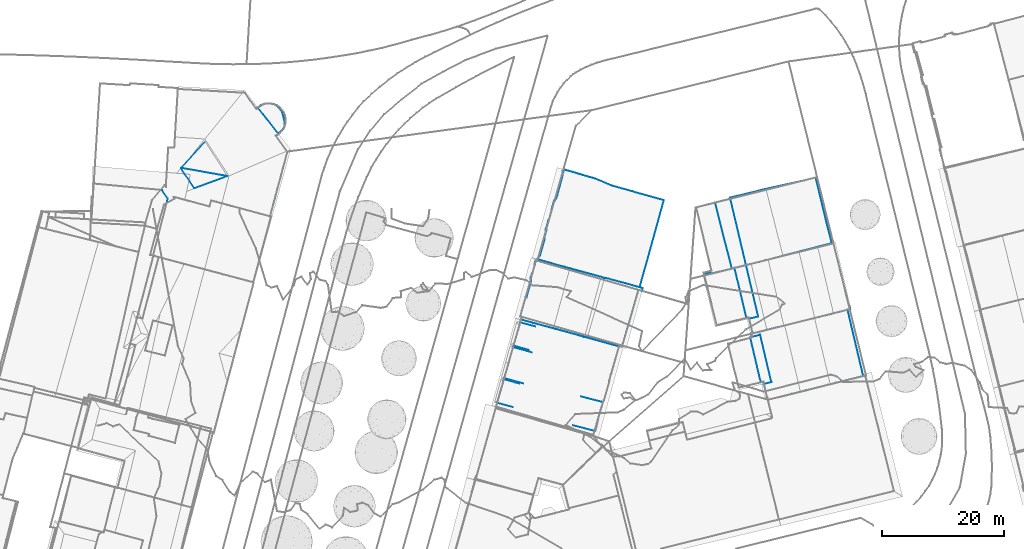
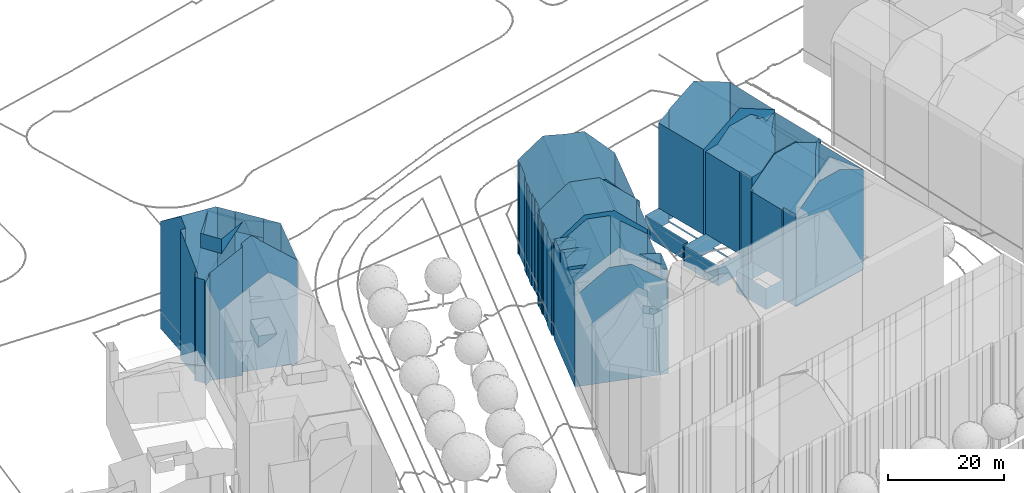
# Not in any storey, part 58 of 477: 7 walls.
"""IFC4 building model written with IfcOpenShell, lengths in metres."""

import ifcopenshell
import ifcopenshell.guid

model = None  # the IFC model being written
_history = None  # IfcOwnerHistory: only IFC2X3 demands one
_inside = {}  # id of a spatial element -> (the spatial element, [elements in it])
_under = {}  # id of a project, library or spatial element -> (it, [spatial elements below it])
_declared = {}  # id of a project -> (the project, [libraries it declares])
_typed = {}  # id of a type object -> (the type object, [elements of that type])
_made_of = {}  # id of a material, layer set ... -> (it, [elements and type objects made of it])


def new_model(schema):
    """Start an empty IFC model of exactly this schema.

    Asked for "IFC4X3", IfcOpenShell would pick the latest addendum, in which some entities
    have other attributes; the version numbers below select the first issue.
    IFC2X3 requires an IfcOwnerHistory on every rooted entity: one is made here for all.
    """
    global model, _history
    if schema == "IFC4X3":
        model = ifcopenshell.file(schema_version=(4, 3, 0, 0))
    else:
        model = ifcopenshell.file(schema=schema)
    _inside.clear()
    _under.clear()
    _declared.clear()
    _typed.clear()
    _made_of.clear()
    _history = None
    if model.schema == "IFC2X3":
        org = make("IfcOrganization", Name="unknown")
        user = make(
            "IfcPersonAndOrganization",
            ThePerson=make("IfcPerson", FamilyName="unknown"),
            TheOrganization=org,
        )
        app = make(
            "IfcApplication",
            ApplicationDeveloper=org,
            Version="unknown",
            ApplicationFullName="unknown",
            ApplicationIdentifier="unknown",
        )
        _history = make(
            "IfcOwnerHistory",
            OwningUser=user,
            OwningApplication=app,
            ChangeAction="ADDED",
            CreationDate=0,
        )
    return model


def make(cls, **values):
    """One entity of the class cls with the attributes given. An attribute that is None is left unset."""
    return model.create_entity(
        cls, **{name: value for name, value in values.items() if value is not None}
    )


def rooted(cls, **values):
    """An entity with a GlobalId (a new one), such as an element, a storey or a relation."""
    return make(cls, GlobalId=ifcopenshell.guid.new(), OwnerHistory=_history, **values)


def si_unit(unit_type, name, prefix=None):
    """IfcSIUnit, for example si_unit("LENGTHUNIT", "METRE", prefix="MILLI")."""
    return make("IfcSIUnit", UnitType=unit_type, Prefix=prefix, Name=name)


def assignment(units):
    """IfcUnitAssignment: the units of a project."""
    return None if units is None else make("IfcUnitAssignment", Units=units)


def point(xyz):
    """IfcCartesianPoint."""
    return None if xyz is None else make("IfcCartesianPoint", Coordinates=xyz)


def direction(xyz):
    """IfcDirection."""
    return None if xyz is None else make("IfcDirection", DirectionRatios=xyz)


def frame(location, z_axis=None, x_axis=None):
    """IfcAxis2Placement3D, a coordinate frame: its origin and axes. An axis left out is left unset."""
    return make(
        "IfcAxis2Placement3D",
        Location=point(location),
        Axis=direction(z_axis),
        RefDirection=direction(x_axis),
    )


def origin_with_axes():
    """The frame at (0, 0, 0) with the z axis (0, 0, 1) and the x axis (1, 0, 0) written out."""
    return frame((0.0, 0.0, 0.0), z_axis=(0.0, 0.0, 1.0), x_axis=(1.0, 0.0, 0.0))


def place(relative_to, where):
    """IfcLocalPlacement: puts the frame where relative to a parent placement (None: the world)."""
    return make(
        "IfcLocalPlacement", PlacementRelTo=relative_to, RelativePlacement=where
    )


def context(
    kind, dimensions, precision=None, world=None, true_north=None, identifier=None
):
    """IfcGeometricRepresentationContext, for example the 3D "Model" context."""
    return make(
        "IfcGeometricRepresentationContext",
        ContextIdentifier=identifier,
        ContextType=kind,
        CoordinateSpaceDimension=dimensions,
        Precision=precision,
        WorldCoordinateSystem=world,
        TrueNorth=true_north,
    )


def subcontext(parent, identifier, kind, view, scale=None):
    """IfcGeometricRepresentationSubContext, for example "Body" below "Model"."""
    return make(
        "IfcGeometricRepresentationSubContext",
        ContextIdentifier=identifier,
        ContextType=kind,
        ParentContext=parent,
        TargetScale=scale,
        TargetView=view,
    )


def project(units=None, contexts=None):
    """IfcProject with its units and contexts."""
    return rooted(
        "IfcProject",
        Name="project",
        RepresentationContexts=contexts,
        UnitsInContext=assignment(units),
    )


def spatial(cls, under=None, at=None, **own):
    """A site, building, storey or space (cls), placed at a placement, below another one or the project."""
    s = rooted(cls, ObjectPlacement=at, **own)
    if under is not None:
        _under.setdefault(under.id(), (under, []))[1].append(s)
    return s


def point_list(points):
    """IfcCartesianPointList2D or 3D."""
    cls = (
        "IfcCartesianPointList2D" if len(points[0]) == 2 else "IfcCartesianPointList3D"
    )
    return make(cls, CoordList=points)


def polygons(points, faces, closed=None, point_numbers=None):
    """IfcPolygonalFaceSet: a face is its outer loop, then its inner loops; points numbered from 1."""
    made = []
    for loops in faces:
        if len(loops) == 1:
            made.append(make("IfcIndexedPolygonalFace", CoordIndex=loops[0]))
        else:
            made.append(
                make(
                    "IfcIndexedPolygonalFaceWithVoids",
                    CoordIndex=loops[0],
                    InnerCoordIndices=loops[1:],
                )
            )
    return make(
        "IfcPolygonalFaceSet",
        Coordinates=point_list(points),
        Closed=closed,
        Faces=made,
        PnIndex=point_numbers,
    )


def shape(context_of_items, identifier, shape_type, items):
    """IfcShapeRepresentation: the items that make up one representation, for example the "Body"."""
    return make(
        "IfcShapeRepresentation",
        ContextOfItems=context_of_items,
        RepresentationIdentifier=identifier,
        RepresentationType=shape_type,
        Items=items,
    )


def made_of(thing, what):
    """Note that an element or type object is made of a material, layer set ...; save() writes the relation."""
    if what is not None:
        _made_of.setdefault(what.id(), (what, []))[1].append(thing)
    return thing


def element(
    cls,
    number,
    at=None,
    inside=None,
    cuts=None,
    type_object=None,
    material=None,
    context=None,
    identifier="Body",
    shape_type=None,
    held_by="IfcProductDefinitionShape",
    body=None,
    shapes=None,
    **own,
):
    """One element of the class cls, such as IfcWall. Its Tag is "e" and its number.

    at: its placement. inside: the storey or other place that contains it. cuts: it is an
    opening in that element (IfcRelVoidsElement). A single representation is given by context,
    identifier, shape_type and body (its items); several are given by shapes. held_by: the class
    of the entity that holds the representations. save() writes the other relations.
    """
    e = rooted(cls, Tag="e%d" % number, ObjectPlacement=at, **own)
    if body is not None:
        shapes = [shape(context, identifier, shape_type, body)]
    if shapes is not None:
        e.Representation = make(held_by, Representations=shapes)
    if inside is not None:
        _inside.setdefault(inside.id(), (inside, []))[1].append(e)
    if cuts is not None:
        rooted(
            "IfcRelVoidsElement", RelatingBuildingElement=cuts, RelatedOpeningElement=e
        )
    if type_object is not None:
        _typed.setdefault(type_object.id(), (type_object, []))[1].append(e)
    return made_of(e, material)


def aggregate(whole, parts):
    """IfcRelAggregates: a whole, such as a stair, and the parts it consists of."""
    return rooted("IfcRelAggregates", RelatingObject=whole, RelatedObjects=parts)


def save(model, path):
    """Write the relations noted so far, then the file.

    IfcRelAggregates (storeys below a building ...), IfcRelContainedInSpatialStructure (elements
    in a storey), IfcRelDefinesByType, IfcRelAssociatesMaterial and IfcRelDeclares: one each for
    every whole, place, type object, material and project.
    """
    for whole, parts in _under.values():
        aggregate(whole, parts)
    for where, things in _inside.values():
        rooted(
            "IfcRelContainedInSpatialStructure",
            RelatedElements=things,
            RelatingStructure=where,
        )
    for kind, things in _typed.values():
        rooted("IfcRelDefinesByType", RelatedObjects=things, RelatingType=kind)
    for what, things in _made_of.values():
        rooted("IfcRelAssociatesMaterial", RelatedObjects=things, RelatingMaterial=what)
    for by, libraries in _declared.values():
        rooted("IfcRelDeclares", RelatingContext=by, RelatedDefinitions=libraries)
    model.write(path)


model = new_model("IFC4")

# Units and contexts
model_context = context("Model", 3, precision=1e-05, world=origin_with_axes())
body_context = subcontext(model_context, "Body", "Model", "MODEL_VIEW")
ifc_project = project(units=[si_unit("AREAUNIT", "SQUARE_METRE"), si_unit("LENGTHUNIT", "METRE")], contexts=[model_context])

# Sites, building
site_1_placement = place(None, origin_with_axes())
site_1 = spatial("IfcSite", under=ifc_project, at=site_1_placement, Name="Topoexport Site")
site_2_placement = place(site_1_placement, origin_with_axes())
site_2 = spatial("IfcSite", under=site_1, at=site_2_placement, Name="TPX_BUILDINGS")
building_1_placement = place(site_2_placement, frame((64.667732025, 395.1844160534, 537.6027), z_axis=(0.0, 0.0, 1.0), x_axis=(1.0, 0.0, 0.0)))
building_1 = spatial("IfcBuilding", under=site_2, at=building_1_placement, Name="Building 211", CompositionType="ELEMENT")

# Wall
wall_1_placement = place(None, frame((64.667732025, 395.1844160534, 537.6027), z_axis=(0.0, 0.0, 1.0), x_axis=(1.0, 0.0, 0.0)))
element("IfcWall", 1, at=wall_1_placement, inside=building_1, Name="Wall 0", context=body_context, shape_type="Tessellation", body=[
    polygons([(1.3420000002, 4.691399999, 19.0922), (1.3420000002, 4.691399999, 21.8939), (4.5400000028, 3.8125, 21.8939), (2.7980000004, 9.7821999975, 19.1392), (5.943, 8.9188999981, 21.8939), (2.7980000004, 9.7821999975, 21.8939), (18.5920000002, 4.3182999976, 0.0), (18.6610000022, 4.2949000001, 19.1112), (18.5920000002, 4.3182999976, 9.5821), (18.6610000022, 4.2949000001, 0.0), (17.7279000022, 1.0175999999, 19.1352), (17.7279000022, 1.0175999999, 0.0), (17.6489000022, 1.0409999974, 19.1962), (17.6490000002, 1.0409999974, 0.0), (4.0940000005, 14.311499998, 0.0), (9.7730000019, 12.7919999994, 0.0), (4.0940000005, 14.311499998, 19.1812), (17.5660000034, 0.7548999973, 21.58), (13.8360000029, 1.7118999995, 22.0739), (14.7220000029, 1.4853000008, 21.393), (17.5660000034, 0.7548999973, 19.2002), (16.9110000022, 0.9228000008, 19.7051), (16.1920000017, -3.9717000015, 21.5999), (16.1920000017, -3.9717000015, 19.2552), (14.6000000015, -3.563500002, 20.4831), (12.5160000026, -3.0283000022, 22.0869), (1.2870000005, 4.498999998, 19.0902), (3.9030000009, 3.7802999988, 21.381), (1.2870000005, 4.498999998, 21.381), (0.1810000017, 0.6338, 19.0542), (0.1810000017, 0.6338, 21.381), (2.8380000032, -0.0956999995, 21.381), (3.9660000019, 13.8641999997, 19.1772), (6.4830000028, 13.1719000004, 21.382), (3.9660000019, 13.8641999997, 21.381), (2.8680000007, 10.0253999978, 19.1412), (2.8680000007, 10.0253999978, 21.381), (5.4240000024, 9.3222000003, 21.381), (20.200000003, 9.8876999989, 19.1072), (20.200000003, 9.8876999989, 0.0), (18.8600000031, 5.245099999, 0.0), (18.8600000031, 5.245099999, 19.1552), (18.5920000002, 4.3182999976, 19.1652), (15.995000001, -4.6484999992, -0.0001), (15.995000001, -4.6484999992, 19.2631), (13.6960000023, 11.6972000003, 24.1487), (13.6960000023, 11.6972000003, 0.0), (14.9600000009, 11.3524999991, 23.1708), (14.9600000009, 11.3524999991, 0.0), (0.0, 0.0, 19.0482), (0.0, 0.0, 0.0), (0.3230000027, 1.1279000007, 21.546), (1.1180000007, 3.9091999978, 21.557), (2.001000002, 6.9941000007, 0.0), (2.7980000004, 9.7821999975, 0.0), (2.0560000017, 7.1875, 23.1738), (3.0410000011, 10.6307999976, 21.579), (3.7740000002, 13.1923999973, 21.589), (14.5840000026, -4.2382999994, 0.0), (9.7090000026, -2.8203000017, 0.0), (14.5840000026, -4.2382999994, 20.3611), (5.7960000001, -1.683600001, 0.0), (5.7960000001, -1.683600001, 24.1487), (9.7090000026, -2.8203000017, 24.1487), (9.7730000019, 12.7919999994, 24.1487)], [[[3, 2, 1]], [[6, 5, 4]], [[9, 8, 7]], [[8, 10, 7]], [[13, 12, 11]], [[13, 14, 12]], [[8, 11, 10]], [[11, 12, 10]], [[17, 16, 15]], [[20, 19, 18]], [[22, 18, 21]], [[18, 22, 20]], [[25, 24, 23]], [[26, 25, 23]], [[29, 28, 27]], [[32, 31, 30]], [[35, 34, 33]], [[38, 37, 36]], [[9, 40, 39]], [[9, 41, 40]], [[39, 42, 9]], [[41, 9, 7]], [[42, 43, 9]], [[14, 13, 21]], [[24, 18, 23]], [[24, 14, 21]], [[14, 24, 44]], [[44, 24, 45]], [[21, 18, 24]], [[47, 16, 46]], [[46, 48, 47]], [[48, 39, 49]], [[40, 49, 39]], [[48, 49, 47]], [[30, 51, 50]], [[31, 52, 30]], [[52, 53, 27]], [[51, 30, 27]], [[27, 53, 29]], [[52, 27, 30]], [[54, 27, 1]], [[4, 15, 55]], [[1, 55, 54]], [[54, 51, 27]], [[55, 1, 4]], [[56, 1, 2]], [[6, 4, 56]], [[56, 4, 1]], [[36, 37, 57]], [[57, 58, 33]], [[35, 33, 58]], [[4, 36, 15]], [[33, 17, 15]], [[33, 36, 57]], [[36, 33, 15]], [[44, 45, 59]], [[45, 60, 59]], [[62, 60, 61]], [[60, 45, 61]], [[61, 64, 63]], [[50, 51, 62]], [[50, 61, 63]], [[50, 62, 61]], [[9, 43, 8]], [[65, 16, 17]], [[16, 65, 46]]]),
])

# Building
building_2_placement = place(site_2_placement, frame((102.7887320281, 405.5477160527, 537.9757), z_axis=(0.0, 0.0, 1.0), x_axis=(1.0, 0.0, 0.0)))
building_2 = spatial("IfcBuilding", under=site_2, at=building_2_placement, Name="Building 213", CompositionType="ELEMENT")

# Wall
wall_2_placement = place(None, frame((102.7887320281, 405.5477160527, 537.9757), z_axis=(0.0, 0.0, 1.0), x_axis=(1.0, 0.0, 0.0)))
element("IfcWall", 2, at=wall_2_placement, inside=building_2, Name="Wall 0", context=body_context, shape_type="Tessellation", body=[
    polygons([(5.4069999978, -6.3467000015, 4.4825), (3.6710000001, 0.9648000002, 4.4825), (5.4069999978, -6.3467000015, 19.2121), (19.6569999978, 5.5711999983, 0.1519), (22.2419999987, -5.3194000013, 21.2059), (19.6569999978, 5.5711999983, 21.2059), (1.7809999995, -7.2294999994, 0.0), (0.0, 0.0, 4.4825), (1.7809999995, -7.2294999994, 4.4825), (7.1319999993, -6.3047000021, 0.0), (5.9039999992, -6.5967000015, 0.0), (7.1319999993, -6.3047000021, 0.1519), (5.2899999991, 1.4569999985, 0.0), (5.2899999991, 1.4569999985, 0.152), (3.9609999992, 1.1415999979, 0.0), (3.9609999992, 1.1415999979, 0.152), (3.9849999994, 1.0478000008, 0.0), (3.9849999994, 1.0478000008, 19.4691), (3.8389999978, 1.6220000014, 19.4611), (3.8389999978, 1.6220000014, 0.152), (0.0, 0.0, 0.0), (3.6710000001, 0.9657999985, 19.2121), (5.8159999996, -6.2481000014, 19.5451), (5.8159999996, -6.2481000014, 0.0), (6.5639999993, -9.2256000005, 19.5771), (16.7939999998, -6.6768000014, 23.9257), (22.2419999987, -5.3194000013, 0.1519), (16.7939999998, -6.6768000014, 0.1519), (11.8929999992, -7.8984999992, 23.9257), (11.8929999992, -7.8984999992, 0.1519), (6.5639999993, -9.2256000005, 0.1519), (9.3090000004, 2.9882000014, 23.9257), (9.3090000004, 2.9882000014, 0.152), (14.2089999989, 4.2109000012, 23.9257), (14.2089999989, 4.2109000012, 0.152), (5.9039999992, -6.5967000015, 0.1519)], [[[3, 2, 1]], [[6, 5, 4]], [[9, 8, 7]], [[12, 11, 10]], [[14, 12, 13]], [[16, 13, 15]], [[18, 16, 17]], [[16, 18, 19]], [[17, 16, 15]], [[20, 16, 19]], [[17, 21, 2]], [[2, 21, 8]], [[2, 22, 18]], [[2, 18, 17]], [[23, 3, 1]], [[23, 1, 24]], [[1, 7, 24]], [[7, 1, 9]], [[5, 26, 25]], [[28, 27, 5]], [[25, 26, 29]], [[25, 31, 30]], [[30, 28, 25]], [[25, 28, 5]], [[19, 32, 6]], [[33, 20, 19]], [[6, 32, 34]], [[4, 35, 19]], [[33, 19, 35]], [[19, 6, 4]], [[36, 31, 25]], [[36, 23, 24]], [[23, 36, 25]], [[36, 24, 11]], [[22, 2, 3]], [[5, 27, 4]], [[8, 21, 7]], [[36, 11, 12]], [[12, 10, 13]], [[14, 13, 16]]]),
])

# Building
building_3_placement = place(site_2_placement, frame((98.9137320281, 416.7703160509, 537.9817), z_axis=(0.0, 0.0, 1.0), x_axis=(1.0, 0.0, 0.0)))
building_3 = spatial("IfcBuilding", under=site_2, at=building_3_placement, Name="Building 215", CompositionType="ELEMENT")

# Wall
wall_3_placement = place(None, frame((98.9137320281, 416.7703160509, 537.9817), z_axis=(0.0, 0.0, 1.0), x_axis=(1.0, 0.0, 0.0)))
element("IfcWall", 3, at=wall_3_placement, inside=building_3, Name="Wall 0", context=body_context, shape_type="Tessellation", body=[
    polygons([(6.9159999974, -6.990199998, 4.2916), (4.9659999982, 1.2246000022, 21.6039), (6.9159999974, -6.990199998, 21.6039), (21.1049999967, 5.5108000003, 0.4299), (21.1659999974, 5.5244000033, 0.4299), (21.1049999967, 5.5108000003, 21.6209), (21.1659999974, 5.5244000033, 21.6179), (21.1469999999, 5.3467000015, 16.3234), (21.1469999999, 5.3467000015, 21.6209), (21.1469999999, 5.3467000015, 0.4299), (23.9799999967, -5.5399999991, 21.6099), (23.8599999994, -5.0223999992, 21.6099), (23.8599999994, -5.0223999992, 0.4299), (23.9799999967, -5.5399999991, 0.4299), (2.0399999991, -8.1669999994, 0.0), (0.0, 0.0, 4.2916), (2.0399999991, -8.1669999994, 4.2916), (8.8509999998, -6.753899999, 0.0), (7.3609999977, -7.1074000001, 0.0), (8.8509999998, -6.753899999, 0.4299), (6.8469999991, 1.6904000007, 0.0), (6.8469999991, 1.6904000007, 0.4299), (7.3090000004, -6.8954999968, 21.6239), (7.3090000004, -6.8954999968, 0.0), (21.2329999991, 5.2588, 21.6179), (21.2329999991, 5.2588, 0.4299), (23.7749999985, -5.0399999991, 0.4299), (23.7749999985, -5.0399999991, 21.6139), (7.9560000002, -9.5361000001, 21.6249), (7.9560000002, -9.5361000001, 0.4299), (7.3609999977, -7.1074000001, 0.4299), (10.2969999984, -8.9520999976, 0.4299), (21.1979999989, -6.2333999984, 21.7419), (18.1219999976, -7.0009999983, 24.1427), (13.0439999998, -8.2675999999, 24.1427), (10.2579999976, -8.9628999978, 21.7419), (4.9659999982, 1.2246000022, 4.2916), (0.0, 0.0, 0.0), (5.2879999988, 1.3047000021, 0.0), (7.680999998, 1.8965000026, 0.4299), (5.2879999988, 1.3037, 21.6199), (10.0669999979, 2.4883000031, 0.4299), (10.0669999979, 2.4883000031, 21.7419), (7.680999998, 1.8965000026, 21.7419), (10.0669999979, 2.4893000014, 23.7977), (12.8999999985, 3.2256000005, 0.4299), (21.1469999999, 5.3467000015, 11.0249), (18.243999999, 4.5996000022, 0.4299), (18.6039999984, 4.692400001, 0.4299), (12.8999999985, 3.2256000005, 24.1427), (10.4659999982, 2.5938000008, 24.1427), (18.243999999, 4.5996000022, 22.0239), (15.5339999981, 3.9024000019, 24.1427), (18.6039999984, 4.692400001, 21.7419)], [[[3, 2, 1]], [[6, 5, 4]], [[5, 6, 7]], [[9, 6, 8]], [[6, 4, 10]], [[13, 12, 11]], [[14, 13, 11]], [[17, 16, 15]], [[20, 19, 18]], [[22, 20, 21]], [[24, 23, 1]], [[1, 23, 3]], [[1, 17, 15]], [[1, 15, 24]], [[7, 25, 5]], [[26, 5, 25]], [[25, 27, 26]], [[28, 27, 25]], [[31, 30, 29]], [[31, 23, 24]], [[23, 31, 29]], [[31, 24, 19]], [[32, 14, 11]], [[33, 32, 11]], [[33, 34, 30]], [[36, 34, 35]], [[32, 33, 30]], [[36, 29, 30]], [[34, 36, 30]], [[39, 38, 37]], [[22, 39, 37]], [[22, 21, 39]], [[37, 40, 22]], [[16, 37, 38]], [[2, 41, 37]], [[37, 42, 40]], [[42, 37, 43]], [[44, 43, 37]], [[43, 44, 45]], [[37, 41, 44]], [[46, 42, 43]], [[48, 46, 47]], [[47, 10, 49]], [[48, 47, 49]], [[46, 43, 47]], [[51, 50, 43]], [[52, 43, 50]], [[52, 50, 53]], [[43, 8, 47]], [[54, 9, 8]], [[52, 54, 8]], [[52, 8, 43]], [[45, 51, 43]], [[2, 37, 1]], [[28, 12, 27]], [[12, 13, 27]], [[47, 8, 6]], [[6, 10, 47]], [[16, 38, 15]], [[31, 19, 20]], [[20, 18, 21]]]),
])

# Building
building_4_placement = place(site_2_placement, frame((97.5747320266, 427.9617160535, 537.9817), z_axis=(0.0, 0.0, 1.0), x_axis=(1.0, 0.0, 0.0)))
building_4 = spatial("IfcBuilding", under=site_2, at=building_4_placement, Name="Building 216", CompositionType="ELEMENT")

# Wall
wall_4_placement = place(None, frame((97.5747320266, 427.9617160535, 537.9817), z_axis=(0.0, 0.0, 1.0), x_axis=(1.0, 0.0, 0.0)))
element("IfcWall", 4, at=wall_4_placement, inside=building_4, Name="Wall 0", context=body_context, shape_type="Tessellation", body=[
    polygons([(2.5130000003, -10.4209000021, 0.0), (0.0, 0.0, 4.2916), (2.5130000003, -10.4209000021, 4.2916), (2.2910000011, -10.4756000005, 0.0), (2.2910000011, -10.4756000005, 4.2916), (2.3269999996, -10.6279000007, 0.0), (2.3269999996, -10.6279000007, 4.2916), (1.262000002, -10.879900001, 0.0), (1.262000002, -10.879900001, 4.2916), (1.3359999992, -11.1777000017, 0.0), (1.3359999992, -11.1777000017, 4.2916), (5.5989999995, 1.3984999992, 0.0), (8.1860000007, -9.5, 0.4069), (5.5989999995, 1.3984999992, 0.407), (5.5518999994, 1.5956999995, 0.407), (5.5989999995, 1.3983999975, 23.5957), (5.5989999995, 1.3983999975, 17.2984), (11.4310000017, 3.0196000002, 0.407), (5.5520000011, 1.5956999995, 23.5977), (17.7349999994, 4.4296999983, 0.407), (17.7349999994, 4.4296999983, 16.9654), (21.4979999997, -2.8007999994, 0.4069), (22.2230000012, -5.6592000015, 0.4069), (21.4979999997, -2.8007999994, 22.4478), (19.7010000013, 4.6054999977, 0.407), (19.7010000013, 4.6054999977, 22.5858), (19.7170000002, 4.9247999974, 0.407), (19.7930000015, 4.6279999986, 0.407), (19.7170000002, 4.9247999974, 22.5438), (22.4250000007, -5.6084000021, 0.4069), (22.4860000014, -5.8447000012, 0.4069), (22.4250000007, -5.6084000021, 22.2679), (22.4860000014, -5.8447000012, 22.2619), (5.8550000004, -10.076100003, 4.2916), (3.1070000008, 0.7763999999, 22.2619), (5.8550000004, -10.076100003, 22.2619), (0.0, 0.0, 0.0), (3.1070000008, 0.7763999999, 4.2916), (4.6829999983, 1.1689999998, 23.1048), (19.6849999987, 4.9169999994, 22.5608), (17.7349999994, 4.4296999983, 23.5537), (19.5830000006, -6.5918000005, 0.4069), (14.2390000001, -7.9658000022, 0.4069), (11.4050000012, -8.6982000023, 0.4069), (19.5830000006, -6.5918000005, 23.8397), (11.4050000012, -8.6982000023, 25.2266), (14.2390000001, -7.9658000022, 26.7444), (10.313000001, -8.9736000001, 0.4069), (10.313000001, -8.9736000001, 24.6426), (6.6270000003, -9.8877000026, 22.6738), (6.6270000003, -9.8867000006, 0.0), (8.1860000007, -9.5, 0.0), (11.4310000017, 3.0196000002, 26.7444), (22.2230000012, -5.6592000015, 22.3778), (19.7930000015, 4.6279999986, 22.5358)], [[[3, 2, 1]], [[5, 3, 4]], [[7, 5, 6]], [[9, 7, 8]], [[11, 9, 10]], [[14, 13, 12]], [[17, 16, 15]], [[14, 17, 15]], [[19, 18, 15]], [[21, 20, 18]], [[24, 23, 22]], [[26, 24, 25]], [[24, 22, 25]], [[29, 28, 27]], [[32, 31, 30]], [[31, 32, 33]], [[36, 35, 34]], [[2, 38, 37]], [[37, 14, 12]], [[14, 37, 38]], [[38, 17, 14]], [[39, 16, 17]], [[17, 38, 35]], [[17, 35, 39]], [[41, 40, 21]], [[29, 21, 40]], [[21, 27, 20]], [[21, 29, 27]], [[31, 33, 42]], [[43, 42, 33]], [[45, 44, 43]], [[43, 33, 45]], [[45, 47, 46]], [[49, 48, 44]], [[49, 45, 46]], [[49, 44, 45]], [[49, 50, 34]], [[13, 48, 34]], [[49, 34, 48]], [[34, 50, 36]], [[34, 11, 10]], [[52, 13, 51]], [[10, 51, 34]], [[51, 13, 34]], [[2, 37, 1]], [[3, 1, 4]], [[5, 4, 6]], [[7, 6, 8]], [[9, 8, 10]], [[13, 52, 12]], [[16, 19, 15]], [[53, 18, 19]], [[41, 18, 53]], [[41, 21, 18]], [[23, 54, 32]], [[32, 30, 23]], [[54, 23, 24]], [[26, 28, 55]], [[26, 25, 28]], [[55, 28, 29]], [[35, 38, 34]]]),
])

# Building
building_5_placement = place(site_2_placement, frame((71.5077320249, 419.4158160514, 538.2757), z_axis=(0.0, 0.0, 1.0), x_axis=(1.0, 0.0, 0.0)))
building_5 = spatial("IfcBuilding", under=site_2, at=building_5_placement, Name="Building 218", CompositionType="ELEMENT")

# Wall
wall_5_placement = place(None, frame((71.5077320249, 419.4158160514, 538.2757), z_axis=(0.0, 0.0, 1.0), x_axis=(1.0, 0.0, 0.0)))
element("IfcWall", 5, at=wall_5_placement, inside=building_5, Name="Wall 0", context=body_context, shape_type="Tessellation", body=[
    polygons([(10.3780000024, -2.8768999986, 0.0), (5.2630000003, -1.4716999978, 23.8407), (10.3780000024, -2.8768999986, 23.8407), (12.2180000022, 12.0987000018, 0.0), (15.4800000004, 11.1905000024, 23.8407), (12.2180000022, 12.0987000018, 23.8407), (10.9740000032, -3.0537, 0.0), (10.9740000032, -3.0537, 23.8627), (11.5430000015, -3.1571999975, 0.0), (11.5430000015, -3.1571999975, 23.8407), (14.3450000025, -3.9266999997, 0.0), (14.3450000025, -3.9266999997, 20.903), (15.4800000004, 11.1905000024, 0.0), (20.7310000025, 9.7285000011, 18.3702), (16.7580000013, -4.5887999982, 0.0), (16.7580000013, -4.5887999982, 18.3702), (20.7310000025, 9.7285000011, 0.0), (3.057, 10.0225000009, 0.0), (2.9600000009, 10.0479000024, 19.5221), (2.9600000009, 10.0479000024, 0.0), (2.8170000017, 9.5780999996, 19.5111), (2.8170000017, 9.5780999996, 0.0), (2.6860000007, 9.6192000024, 19.3801), (2.6860000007, 9.6192000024, 0.0), (2.2640000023, 8.1553000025, 19.3651), (2.2640000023, 8.1553000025, 0.0), (2.3280000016, 8.1416000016, 0.0), (1.813000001, 6.3408000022, 0.0), (2.3280000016, 8.1416000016, 19.4271), (1.813000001, 6.3408000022, 19.4121), (1.7470000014, 6.3614000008, 19.3461), (1.7470000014, 6.3613000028, 0.0), (1.3260000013, 4.9141000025, 0.0), (1.3260000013, 4.9141000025, 19.3271), (1.4710000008, 4.8701000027, 19.4721), (1.0390000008, 3.3311000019, 19.4661), (1.4710000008, 4.8701000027, 0.0), (1.0390000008, 3.3311000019, 0.0), (1.1460000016, 3.3018000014, 0.0), (0.3550000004, 0.5391000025, 19.5481), (0.3550000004, 0.5391000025, 0.0), (1.1460000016, 3.3018000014, 19.5721), (0.2380000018, 0.5771999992, 19.4311), (0.2380000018, 0.5773000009, 0.0), (0.1120000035, 0.1436000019, 0.0), (0.1120000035, 0.1436000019, 19.4251), (0.0480000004, 0.1641000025, 19.3611), (0.0480000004, 0.1641000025, 0.0), (0.0, 0.0, 19.3591), (0.0, 0.0, 0.0), (3.4560000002, -0.990199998, 0.0), (3.4560000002, -0.990199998, 22.7848), (3.2380000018, 10.6709000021, 0.0), (3.057, 10.0225000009, 19.6181), (4.137000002, 13.8877000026, 0.0), (4.0730000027, 13.9101999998, 19.5711), (4.137000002, 13.8877000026, 19.6361), (3.6720000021, 12.2246000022, 19.6271), (3.2350000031, 10.6621000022, 19.6191), (4.2300000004, 14.7851999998, 0.0), (6.1230000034, 14.2393000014, 21.392), (4.2300000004, 14.7851999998, 19.4951), (8.5650000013, 13.5342000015, 23.8377), (8.5660000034, 13.5342000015, 0.0), (4.1350000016, 14.4649000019, 19.4881), (4.2270000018, 14.438500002, 19.5801), (4.2270000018, 14.438500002, 0.0), (4.0730000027, 13.9101999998, 0.0), (4.4660000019, -1.253899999, 0.0), (4.4660000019, -1.253899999, 23.7797), (8.5710000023, 13.5322000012, 23.8377), (5.2630000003, -1.4716999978, 0.0), (9.4630000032, 13.2743999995, 0.0), (9.4630000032, 13.2743999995, 23.8387), (9.0840000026, 13.3838, 23.8377), (4.1350000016, 14.4649000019, 0.0)], [[[3, 2, 1]], [[6, 5, 4]], [[8, 3, 7]], [[10, 7, 9]], [[12, 9, 11]], [[5, 14, 13]], [[16, 11, 15]], [[14, 16, 17]], [[20, 19, 18]], [[22, 21, 19]], [[19, 20, 22]], [[21, 22, 23]], [[23, 22, 24]], [[23, 24, 25]], [[25, 24, 26]], [[25, 26, 27]], [[30, 29, 28]], [[30, 32, 31]], [[30, 28, 32]], [[34, 31, 33]], [[31, 32, 33]], [[35, 34, 33]], [[35, 37, 36]], [[36, 37, 38]], [[36, 38, 39]], [[41, 40, 39]], [[39, 40, 42]], [[44, 43, 40]], [[46, 44, 45]], [[46, 45, 47]], [[47, 45, 48]], [[50, 49, 48]], [[47, 48, 49]], [[52, 50, 51]], [[49, 50, 52]], [[18, 54, 53]], [[57, 56, 55]], [[53, 59, 58]], [[57, 55, 58]], [[58, 55, 53]], [[62, 61, 60]], [[61, 63, 60]], [[63, 64, 60]], [[67, 66, 65]], [[56, 67, 68]], [[70, 52, 69]], [[63, 71, 64]], [[2, 70, 72]], [[64, 71, 73]], [[73, 75, 74]], [[73, 74, 6]], [[4, 73, 6]], [[2, 72, 1]], [[5, 13, 4]], [[3, 1, 7]], [[8, 7, 10]], [[10, 9, 12]], [[14, 17, 13]], [[12, 11, 16]], [[16, 15, 17]], [[54, 18, 19]], [[25, 27, 29]], [[29, 27, 28]], [[37, 35, 33]], [[39, 42, 36]], [[44, 40, 41]], [[44, 46, 43]], [[59, 53, 54]], [[56, 68, 55]], [[76, 65, 62]], [[62, 60, 76]], [[65, 76, 67]], [[66, 67, 56]], [[52, 51, 69]], [[70, 69, 72]], [[71, 75, 73]]]),
])

# Building
building_6_placement = place(site_2_placement, frame((68.6347320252, 410.0320160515, 538.0377), z_axis=(0.0, 0.0, 1.0), x_axis=(1.0, 0.0, 0.0)))
building_6 = spatial("IfcBuilding", under=site_2, at=building_6_placement, Name="Building 219", CompositionType="ELEMENT")

# Wall
wall_6_placement = place(None, frame((68.6347320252, 410.0320160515, 538.0377), z_axis=(0.0, 0.0, 1.0), x_axis=(1.0, 0.0, 0.0)))
element("IfcWall", 6, at=wall_6_placement, inside=building_6, Name="Wall 0", context=body_context, shape_type="Tessellation", body=[
    polygons([(14.4160000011, 6.2266000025, 0.0), (17.2180000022, 5.4571000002, 21.141), (14.4160000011, 6.2266000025, 23.6277), (13.8470000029, 6.3300999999, 0.0), (13.8470000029, 6.3300999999, 24.1007), (16.2850000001, -4.7802000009, 19.5891), (16.2850000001, -4.7802000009, 0.0), (16.2340000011, -4.9580000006, 0.0), (16.7609999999, -4.9149999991, 0.0), (16.7609999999, -4.9149999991, 19.1652), (16.7870000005, -4.8231999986, 0.0), (18.1070000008, -0.240199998, 19.1142), (19.4299999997, 4.3506000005, 19.0632), (19.4299999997, 4.3506000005, 0.0), (16.7870000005, -4.8231999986, 19.1652), (20.0100000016, 4.1856000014, 18.5462), (20.0100000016, 4.1856000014, 0.0), (20.1390000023, 4.6543000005, 0.0), (20.1390000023, 4.6543000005, 18.5462), (17.2180000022, 5.4571000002, 0.0), (10.9930000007, -3.495099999, 24.2517), (16.2340000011, -4.9580000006, 19.5911), (10.9930000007, -3.495099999, 0.0), (13.251000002, 6.5069000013, 0.0), (13.251000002, 6.5069000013, 24.6556), (10.5390000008, -3.375, 0.0), (7.3390000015, 8.129900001, 0.0), (8.1359999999, 7.9121000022, 0.0), (7.3390000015, 8.129900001, 24.0177), (6.3289999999, 8.3936000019, 0.0), (6.3289999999, 8.3936000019, 23.0228), (8.1359999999, 7.9121000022, 24.6556), (5.4290000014, -1.9501999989, 24.6556), (10.5390000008, -3.375, 24.6556), (0.1270000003, -0.5350999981, 19.6071), (0.2589999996, -0.0742000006, 0.0), (0.2589999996, -0.0742000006, 19.6161), (5.4290000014, -1.9501999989, 0.0), (0.1270000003, -0.5350999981, 0.0), (0.0, 0.0, 0.0), (0.2910000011, 1.0303000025, 19.3851), (0.0, 0.0, 19.3682), (0.8940000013, 3.1631000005, 0.0), (1.745000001, 6.4053000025, 19.3312), (1.745000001, 6.4053000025, 0.0), (1.9340000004, 7.0479000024, 19.3382), (1.8060000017, 6.3877000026, 0.0), (1.8060000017, 6.3877000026, 19.3912), (1.825000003, 5.9942000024, 0.0), (1.825000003, 5.9942000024, 19.5111), (1.0260000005, 3.1289000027, 0.0), (1.0260000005, 3.1289000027, 19.5171), (2.8729999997, 9.3838, 19.5971), (2.8729999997, 9.3838, 0.0), (2.8010000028, 9.1338, 19.5951), (2.8010000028, 9.1338, 0.0), (2.5300000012, 9.2118999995, 19.3272), (2.5300000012, 9.2118999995, 0.0), (2.3420000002, 8.5284000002, 0.0), (2.3420000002, 8.5284000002, 19.3302), (2.4109000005, 8.5089000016, 19.3992), (2.4110000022, 8.5088, 0.0), (1.9890000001, 7.0331999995, 19.3932), (1.9890000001, 7.0331999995, 0.0), (1.9342, 7.0478000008, 0.0), (1.7060000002, 6.0303000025, 19.3922), (1.7060000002, 6.0303000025, 0.0), (0.8941000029, 3.1631000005, 19.3872)], [[[3, 2, 1]], [[5, 3, 4]], [[8, 7, 6]], [[10, 7, 9]], [[10, 9, 11]], [[14, 13, 12]], [[15, 11, 12]], [[11, 14, 12]], [[17, 16, 14]], [[13, 14, 16]], [[19, 16, 18]], [[16, 17, 18]], [[2, 19, 20]], [[23, 22, 21]], [[23, 8, 22]], [[25, 5, 24]], [[21, 26, 23]], [[29, 28, 27]], [[31, 27, 30]], [[32, 25, 28]], [[34, 33, 26]], [[37, 36, 35]], [[33, 39, 38]], [[39, 33, 35]], [[42, 41, 40]], [[41, 43, 40]], [[36, 37, 42]], [[42, 40, 36]], [[46, 45, 44]], [[48, 44, 47]], [[44, 45, 47]], [[51, 50, 49]], [[52, 51, 43]], [[30, 53, 31]], [[30, 54, 53]], [[53, 54, 55]], [[55, 54, 56]], [[58, 57, 55]], [[55, 56, 58]], [[60, 58, 59]], [[60, 59, 61]], [[64, 63, 62]], [[61, 62, 63]], [[63, 65, 46]], [[63, 64, 65]], [[2, 20, 1]], [[3, 1, 4]], [[22, 8, 6]], [[6, 7, 10]], [[15, 10, 11]], [[19, 18, 20]], [[5, 4, 24]], [[34, 26, 21]], [[32, 28, 29]], [[29, 27, 31]], [[25, 24, 28]], [[33, 38, 26]], [[35, 36, 39]], [[46, 65, 45]], [[48, 47, 66]], [[67, 66, 47]], [[50, 67, 49]], [[66, 67, 50]], [[51, 52, 50]], [[52, 43, 68]], [[68, 43, 41]], [[57, 58, 60]], [[61, 59, 62]]]),
])

# Building
building_7_placement = place(site_2_placement, frame((9.491732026, 430.8250160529, 536.5319), z_axis=(0.0, 0.0, 1.0), x_axis=(1.0, 0.0, 0.0)))
building_7 = spatial("IfcBuilding", under=site_2, at=building_7_placement, Name="Building 234", CompositionType="ELEMENT")

# Wall
wall_7_placement = place(None, frame((9.491732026, 430.8250160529, 536.5319), z_axis=(0.0, 0.0, 1.0), x_axis=(1.0, 0.0, 0.0)))
element("IfcWall", 7, at=wall_7_placement, inside=building_7, Name="Wall 0", context=body_context, shape_type="Tessellation", body=[
    polygons([(18.8330000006, -1.3057000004, 0.0), (18.754999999, -1.5976999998, 21.8499), (19.4739999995, 1.0830000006, 21.9009), (20.8740000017, 6.3046999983, 5.4995), (20.1590000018, 3.6387000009, 21.9489), (20.8740000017, 6.3046999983, 21.9999), (20.8740000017, 6.3046999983, 0.0), (19.9210000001, 2.7509999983, 0.0), (18.0150000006, -4.3574000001, 16.2984), (18.0150000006, -4.3574000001, 10.798), (18.0150000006, -4.3574000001, 5.2985), (18.0150000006, -4.3574000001, 0.0), (19.1920000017, 9.0361000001, 0.0), (19.1920000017, 9.0361000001, 21.9399), (19.4000000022, 9.1660000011, 21.7849), (19.4000000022, 9.1660000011, 0.0), (19.4360000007, 9.192400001, 0.0), (19.069000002, 9.6631000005, 17.6673), (19.4360000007, 9.192400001, 21.7569), (16.6539999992, 12.7529000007, 17.6643), (16.0320000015, 13.5487999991, 21.8839), (16.0320000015, 13.5487999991, 17.6653), (16.0320000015, 13.5487999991, 2.4388), (16.0320000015, 13.5487999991, 0.0), (19.3280000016, 9.3310999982, 2.4388), (19.3280000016, 9.3310999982, 17.6663), (18.9730000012, 8.9248000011, 0.0), (8.3440000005, -1.7382999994, 0.0), (8.0639999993, -2.7382999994, 27.1244), (8.3440000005, -1.7382999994, 27.1434), (2.324000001, -1.4580000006, 0.0), (1.0069999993, -2.1631000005, 21.7589), (2.324000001, -1.4580000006, 22.6099), (2.1640000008, -1.1387000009, 0.0), (2.1640000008, -1.1387000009, 22.4289), (1.0069999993, -2.1631000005, 0.0), (1.1950000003, -1.4287, 21.7589), (1.1950000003, -1.4287, 0.0), (0.2740000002, -0.0263999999, 21.7589), (0.0, 0.0, 0.0), (0.6740000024, 0.8017999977, 0.0), (0.0, 0.0, 21.7589), (0.2740000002, -0.0263999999, 0.0), (1.2829999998, 6.9932000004, 0.0), (2.2829999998, 6.932599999, 0.0), (1.2829999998, 6.9932000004, 27.1344), (5.561999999, 0.2705000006, 24.7017), (5.561999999, 0.2705000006, 27.7614), (10.995000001, 2.2890999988, 28.3483), (3.3640000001, 3.623999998, 0.0), (10.995000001, 2.2890999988, 1.2759), (10.995000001, 2.2890999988, 0.0), (3.3640000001, 3.623999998, 1.2759), (5.561999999, 0.2705000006, 1.2759), (5.561999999, 0.2705000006, 0.0), (3.3640000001, 3.623999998, 24.7017), (7.3110000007, 7.9697000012, 28.3643), (3.3640000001, 3.623999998, 27.7614), (20.3399999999, 10.2763999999, 17.6633), (20.2259999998, 10.058600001, 2.4388), (20.2259999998, 10.058600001, 17.6633), (20.3399999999, 10.2763999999, 2.4388), (20.3900000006, 10.3964999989, 17.6633), (20.3900000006, 10.3964999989, 2.4388), (20.3900000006, 11.3935999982, 2.4388), (20.3900000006, 11.3935999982, 17.6633), (20.1750000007, 9.9785000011, 2.4388), (20.1750000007, 9.9785000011, 17.6643), (17.262000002, 14.1600999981, 2.4388), (17.5040000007, 14.1992000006, 17.6633), (17.262000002, 14.1601999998, 17.6633), (17.0250000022, 14.0986000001, 2.4388), (17.0250000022, 14.0986000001, 17.6633), (16.7939999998, 14.0175999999, 2.4388), (16.7939999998, 14.0175999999, 17.6633), (16.5710000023, 13.9160000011, 2.4388), (16.5710000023, 13.9160000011, 17.6633), (19.9900000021, 12.9101999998, 2.4388), (19.9900000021, 12.9101999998, 17.6633), (19.1649999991, 13.8779000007, 2.4388), (19.1649999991, 13.8779000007, 17.6633), (18.943, 13.9844000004, 2.4388), (18.943, 13.9844000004, 17.6633), (18.7140000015, 14.0731999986, 2.4388), (18.7140000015, 14.0731999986, 17.6633), (18.4790000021, 14.1415999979, 2.4388), (18.4790000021, 14.1415999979, 17.6633), (18.2380000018, 14.1884999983, 2.4388), (18.2380000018, 14.1884999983, 17.6633), (17.993999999, 14.2138999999, 2.4388), (17.993999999, 14.2138999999, 17.6633), (17.7490000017, 14.2177999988, 2.4388), (17.7490000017, 14.2177999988, 17.6633), (17.5040000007, 14.1992000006, 2.4388), (15.9670000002, 13.498999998, 21.9359), (15.7930000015, 13.3262000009, 22.0899), (15.7930000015, 13.3262000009, 0.0), (15.9670000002, 13.498999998, 13.6527), (13.8819999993, 15.9560999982, 0.0), (14.8370000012, 14.6405999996, 22.0909), (13.8819999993, 15.9560999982, 5.5235), (13.8819999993, 15.9560999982, 11.046), (20.7880000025, 6.4228999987, 22.0919), (18.9730000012, 8.9248000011, 22.0939), (18.9730000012, 8.9248000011, 16.5704), (13.449000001, 15.9804999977, 22.3169), (2.8630000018, 16.5850000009, 22.6099), (13.8819999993, 15.9560999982, 16.5694), (13.7170000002, 15.9648000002, 22.1739), (2.8630000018, 16.5850000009, 0.0), (13.8819999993, 15.9560999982, 22.0929), (13.449000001, 15.9804999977, 0.0), (13.7170000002, 15.9648000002, 0.0), (4.6290000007, -1.8066000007, 24.4017), (8.0639999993, -2.7382999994, 0.0), (4.6290000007, -1.8066000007, 0.0), (0.6740000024, 0.8017999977, 22.4049), (0.8139999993, 0.6112999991, 0.0), (0.8940000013, 0.5020000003, 0.0), (0.8940000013, 0.5020000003, 22.2769), (0.8139999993, 0.6112999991, 22.2729), (15.9670000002, 13.4990999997, 0.0), (16.3579999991, 13.7958999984, 2.4388), (16.3579999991, 13.7949000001, 17.6633), (16.5100000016, 13.8808999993, 17.6633), (16.5100000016, 13.8808999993, 2.4388), (11.6510000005, -2.634800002, 0.0), (10.9800000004, -2.4521000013, 0.0), (10.063000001, -2.2041000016, 0.0), (9.1000000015, -1.9433999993, 0.0), (11.6510000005, -2.634800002, 27.0744), (18.0150000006, -4.3574000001, 21.7979), (9.1119999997, -1.9463, 27.7254), (10.9800000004, -2.4521000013, 27.7854), (10.063000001, -2.2041000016, 28.4413), (8.938000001, -1.8993999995, 27.6144), (2.2829999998, 6.932599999, 27.1404), (2.818, 15.8544999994, 23.1668), (2.5260000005, 10.9765999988, 26.8235), (2.3909999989, 8.7285000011, 28.4983), (2.5260000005, 10.9765999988, 0.0), (2.818, 15.8544999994, 0.0), (2.3909999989, 8.7285000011, 0.0), (0.9070000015, 0.7216999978, 0.0), (1.057, 3.2256000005, 0.0), (1.137000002, 4.566399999, 0.0), (1.137000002, 4.566399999, 25.2996), (1.057, 3.2256000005, 24.2417), (0.9070000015, 0.7216999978, 22.3619)], [[[3, 2, 1]], [[6, 5, 4]], [[7, 4, 3]], [[3, 8, 7]], [[2, 9, 1]], [[3, 1, 8]], [[11, 1, 10]], [[11, 12, 1]], [[15, 14, 13]], [[16, 15, 13]], [[15, 16, 17]], [[20, 19, 18]], [[19, 20, 21]], [[21, 20, 22]], [[25, 24, 23]], [[26, 19, 17]], [[19, 26, 18]], [[25, 26, 17]], [[25, 17, 24]], [[13, 14, 27]], [[30, 29, 28]], [[33, 32, 31]], [[35, 31, 34]], [[32, 37, 36]], [[37, 39, 38]], [[42, 41, 40]], [[39, 42, 43]], [[46, 45, 44]], [[49, 48, 47]], [[52, 51, 50]], [[53, 50, 51]], [[55, 54, 51]], [[51, 52, 55]], [[53, 54, 50]], [[58, 57, 56]], [[48, 58, 47]], [[61, 60, 59]], [[59, 60, 62]], [[62, 64, 63]], [[59, 62, 63]], [[66, 64, 65]], [[64, 66, 63]], [[60, 61, 67]], [[61, 68, 67]], [[71, 70, 69]], [[73, 71, 72]], [[75, 73, 74]], [[77, 75, 76]], [[79, 66, 78]], [[81, 79, 80]], [[83, 81, 82]], [[85, 83, 84]], [[87, 85, 86]], [[89, 87, 88]], [[91, 89, 90]], [[93, 91, 92]], [[70, 93, 94]], [[97, 96, 95]], [[98, 97, 95]], [[100, 96, 99]], [[102, 100, 101]], [[96, 97, 99]], [[25, 68, 26]], [[25, 67, 68]], [[105, 104, 103]], [[105, 103, 6]], [[6, 4, 105]], [[105, 4, 27]], [[4, 7, 27]], [[108, 107, 106]], [[106, 109, 108]], [[107, 102, 110]], [[108, 109, 111]], [[102, 101, 110]], [[110, 101, 112]], [[113, 112, 101]], [[99, 113, 101]], [[102, 107, 108]], [[115, 29, 114]], [[115, 114, 35]], [[35, 116, 115]], [[116, 35, 34]], [[118, 41, 117]], [[119, 118, 117]], [[121, 120, 119]], [[117, 121, 119]], [[23, 122, 98]], [[24, 122, 23]], [[98, 95, 22]], [[21, 22, 95]], [[98, 123, 23]], [[22, 124, 123]], [[123, 98, 22]], [[124, 125, 123]], [[123, 125, 126]], [[126, 77, 76]], [[77, 126, 125]], [[12, 11, 127]], [[128, 11, 10]], [[11, 128, 127]], [[129, 128, 10]], [[130, 129, 10]], [[10, 28, 130]], [[132, 131, 9]], [[131, 134, 133]], [[133, 134, 135]], [[28, 9, 30]], [[9, 28, 10]], [[136, 30, 131]], [[30, 9, 131]], [[133, 136, 131]], [[138, 107, 137]], [[137, 140, 139]], [[137, 139, 138]], [[107, 110, 137]], [[142, 141, 137]], [[143, 45, 137]], [[143, 137, 141]], [[137, 110, 142]], [[145, 144, 120]], [[120, 146, 145]], [[44, 146, 120]], [[120, 144, 119]], [[46, 44, 147]], [[149, 148, 44]], [[120, 149, 44]], [[44, 148, 147]], [[5, 3, 4]], [[132, 9, 2]], [[9, 10, 1]], [[15, 17, 19]], [[14, 104, 105]], [[27, 14, 105]], [[29, 115, 28]], [[32, 36, 31]], [[33, 31, 35]], [[37, 38, 36]], [[39, 43, 38]], [[117, 41, 42]], [[42, 40, 43]], [[137, 45, 46]], [[54, 55, 50]], [[58, 56, 47]], [[70, 94, 69]], [[71, 69, 72]], [[73, 72, 74]], [[75, 74, 76]], [[66, 65, 78]], [[79, 78, 80]], [[81, 80, 82]], [[83, 82, 84]], [[85, 84, 86]], [[87, 86, 88]], [[89, 88, 90]], [[91, 90, 92]], [[93, 92, 94]], [[98, 122, 97]], [[111, 100, 108]], [[102, 108, 100]], [[100, 99, 101]]]),
])

save(model, "model.ifc")
